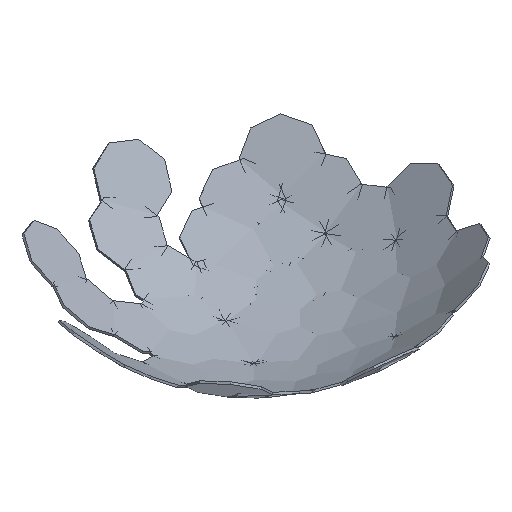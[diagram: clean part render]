
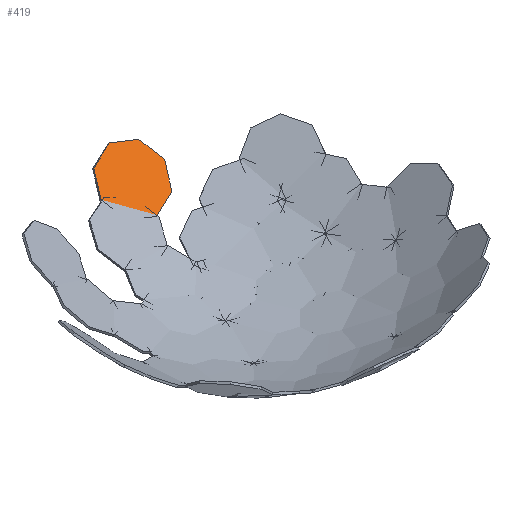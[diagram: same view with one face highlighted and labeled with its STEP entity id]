
A CAD part, isometric view. The second image highlights one B-rep face of the part: STEP entity #419.
In plain terms, the highlighted planar face has unit normal (-0.091, -0.689, 0.719) as drawn and (0, 0, -1) by its records, which use the part's own axes.
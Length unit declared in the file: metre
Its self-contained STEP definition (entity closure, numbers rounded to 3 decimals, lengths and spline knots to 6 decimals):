
#284=ORIENTED_EDGE('',*,*,#292,.F.);
#285=ORIENTED_EDGE('',*,*,#314,.F.);
#286=ORIENTED_EDGE('',*,*,#311,.F.);
#287=ORIENTED_EDGE('',*,*,#308,.F.);
#288=ORIENTED_EDGE('',*,*,#305,.F.);
#289=ORIENTED_EDGE('',*,*,#302,.F.);
#290=ORIENTED_EDGE('',*,*,#299,.F.);
#291=ORIENTED_EDGE('',*,*,#296,.F.);
#292=EDGE_CURVE('',#316,#317,#332,.T.);
#296=EDGE_CURVE('',#317,#320,#336,.T.);
#299=EDGE_CURVE('',#320,#322,#339,.T.);
#302=EDGE_CURVE('',#322,#324,#342,.T.);
#305=EDGE_CURVE('',#324,#326,#345,.T.);
#308=EDGE_CURVE('',#326,#328,#348,.T.);
#311=EDGE_CURVE('',#328,#330,#351,.T.);
#314=EDGE_CURVE('',#330,#316,#354,.T.);
#316=VERTEX_POINT('',#668);
#317=VERTEX_POINT('',#669);
#320=VERTEX_POINT('',#677);
#322=VERTEX_POINT('',#683);
#324=VERTEX_POINT('',#689);
#326=VERTEX_POINT('',#695);
#328=VERTEX_POINT('',#701);
#330=VERTEX_POINT('',#707);
#332=LINE('',#667,#356);
#336=LINE('',#676,#360);
#339=LINE('',#682,#363);
#342=LINE('',#688,#366);
#345=LINE('',#694,#369);
#348=LINE('',#700,#372);
#351=LINE('',#706,#375);
#354=LINE('',#712,#378);
#356=VECTOR('',#507,1.);
#360=VECTOR('',#513,1.);
#363=VECTOR('',#518,1.);
#366=VECTOR('',#523,1.);
#369=VECTOR('',#528,1.);
#372=VECTOR('',#533,1.);
#375=VECTOR('',#538,1.);
#378=VECTOR('',#543,1.);
#389=EDGE_LOOP('',(#284,#285,#286,#287,#288,#289,#290,#291));
#399=FACE_BOUND('',#389,.T.);
#409=PLANE('',#444);
#419=ADVANCED_FACE('',(#399),#409,.F.);
#444=AXIS2_PLACEMENT_3D('',#715,#547,#548);
#507=DIRECTION('',(0.924,0.383,0.));
#513=DIRECTION('',(0.383,0.924,0.));
#518=DIRECTION('',(-0.383,0.924,0.));
#523=DIRECTION('',(-0.924,0.383,0.));
#528=DIRECTION('',(-0.924,-0.383,0.));
#533=DIRECTION('',(-0.383,-0.924,0.));
#538=DIRECTION('',(0.383,-0.924,0.));
#543=DIRECTION('',(0.924,-0.383,0.));
#547=DIRECTION('',(0.,0.,1.));
#548=DIRECTION('',(1.,0.,0.));
#667=CARTESIAN_POINT('',(0.035355,-0.085355,-0.003));
#668=CARTESIAN_POINT('',(0.,-0.1,-0.003));
#669=CARTESIAN_POINT('',(0.070711,-0.070711,-0.003));
#676=CARTESIAN_POINT('',(0.085355,-0.035355,-0.003));
#677=CARTESIAN_POINT('',(0.1,0.,-0.003));
#682=CARTESIAN_POINT('',(0.085355,0.035355,-0.003));
#683=CARTESIAN_POINT('',(0.070711,0.070711,-0.003));
#688=CARTESIAN_POINT('',(0.035355,0.085355,-0.003));
#689=CARTESIAN_POINT('',(0.,0.1,-0.003));
#694=CARTESIAN_POINT('',(-0.035355,0.085355,-0.003));
#695=CARTESIAN_POINT('',(-0.070711,0.070711,-0.003));
#700=CARTESIAN_POINT('',(-0.085355,0.035355,-0.003));
#701=CARTESIAN_POINT('',(-0.1,0.,-0.003));
#706=CARTESIAN_POINT('',(-0.085355,-0.035355,-0.003));
#707=CARTESIAN_POINT('',(-0.070711,-0.070711,-0.003));
#712=CARTESIAN_POINT('',(-0.035355,-0.085355,-0.003));
#715=CARTESIAN_POINT('',(0.,0.,-0.003));
